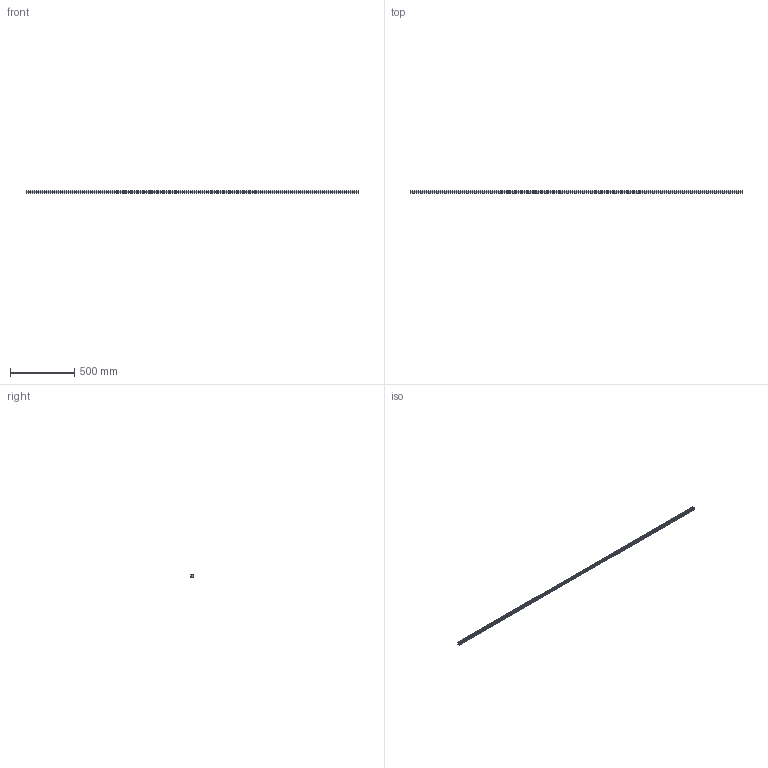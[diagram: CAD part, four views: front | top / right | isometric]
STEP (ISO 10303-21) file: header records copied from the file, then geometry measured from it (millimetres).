
FILE_DESCRIPTION (( 'STEP AP203' ), '1' );
FILE_NAME ('L1018.20R-2580.step', '2023-08-06T09:13:23', ( '' ), ( '' ), 'SwSTEP 2.0', 'SolidWorks 2019', '' );
FILE_SCHEMA (( 'CONFIG_CONTROL_DESIGN' ));
Length unit declared in the file: millimetre
Products named in the file (1): L1018.20R-2580
Bounding box: 2580 x 19.3 x 20 mm (x, y, z)
Volume: 818190.9 mm3; surface area: 218380.6 mm2
Topology: 1 solids, 1 shells, 416 faces, 941 edges, 527 vertices
Faces by surface type: cylinder 175, cone 172, plane 69
Entity records: 11060 total; most frequent: DIRECTION 2125, CARTESIAN_POINT 1799, ORIENTED_EDGE 1710, EDGE_CURVE 855, AXIS2_PLACEMENT_3D 853, VERTEX_POINT 527, EDGE_LOOP 502, CIRCLE 436
